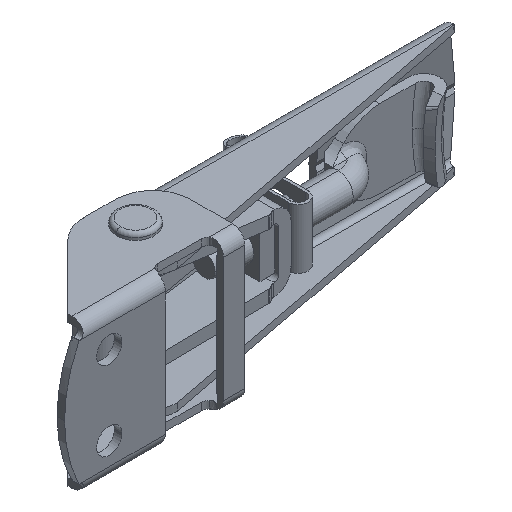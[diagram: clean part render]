
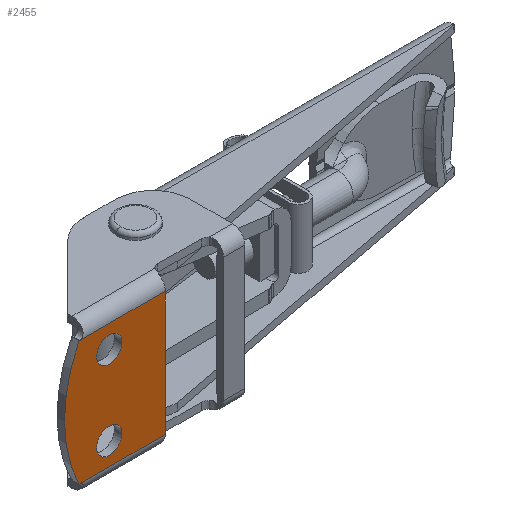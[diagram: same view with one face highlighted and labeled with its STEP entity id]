
A CAD part, isometric view. The second image highlights one B-rep face of the part: STEP entity #2455.
In plain terms, the highlighted planar face has unit normal (0, -1, 0).
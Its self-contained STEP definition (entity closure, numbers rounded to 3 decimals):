
#553 = EDGE_CURVE ( 'NONE', #554, #555, #5792, .T. ) ;
#554 = VERTEX_POINT ( 'NONE', #5788 ) ;
#555 = VERTEX_POINT ( 'NONE', #5787 ) ;
#863 = VERTEX_POINT ( 'NONE', #6572 ) ;
#865 = EDGE_CURVE ( 'NONE', #866, #863, #6485, .T. ) ;
#866 = VERTEX_POINT ( 'NONE', #6480 ) ;
#932 = EDGE_CURVE ( 'NONE', #933, #934, #6669, .T. ) ;
#933 = VERTEX_POINT ( 'NONE', #6670 ) ;
#934 = VERTEX_POINT ( 'NONE', #6659 ) ;
#2389 = VERTEX_POINT ( 'NONE', #9462 ) ;
#2455 = ADVANCED_FACE ( 'NONE', ( #9475, #9474, #9473 ), #9472, .F. ) ;
#2456 = EDGE_LOOP ( 'NONE', ( #2457, #2458 ) ) ;
#2457 = ORIENTED_EDGE ( 'NONE', *, *, #2470, .T. ) ;
#2458 = ORIENTED_EDGE ( 'NONE', *, *, #553, .T. ) ;
#2460 = EDGE_LOOP ( 'NONE', ( #2461, #2462 ) ) ;
#2461 = ORIENTED_EDGE ( 'NONE', *, *, #2487, .T. ) ;
#2462 = ORIENTED_EDGE ( 'NONE', *, *, #932, .T. ) ;
#2470 = EDGE_CURVE ( 'NONE', #555, #554, #9440, .T. ) ;
#2487 = EDGE_CURVE ( 'NONE', #934, #933, #9646, .T. ) ;
#2502 = EDGE_LOOP ( 'NONE', ( #2503, #2507, #2510, #2513, #2515, #2549, #2569 ) ) ;
#2503 = ORIENTED_EDGE ( 'NONE', *, *, #2504, .T. ) ;
#2504 = EDGE_CURVE ( 'NONE', #2505, #2506, #9755, .T. ) ;
#2505 = VERTEX_POINT ( 'NONE', #9664 ) ;
#2506 = VERTEX_POINT ( 'NONE', #9663 ) ;
#2507 = ORIENTED_EDGE ( 'NONE', *, *, #2508, .T. ) ;
#2508 = EDGE_CURVE ( 'NONE', #2506, #2509, #9662, .T. ) ;
#2509 = VERTEX_POINT ( 'NONE', #9704 ) ;
#2510 = ORIENTED_EDGE ( 'NONE', *, *, #2511, .F. ) ;
#2511 = EDGE_CURVE ( 'NONE', #2512, #2509, #9703, .T. ) ;
#2512 = VERTEX_POINT ( 'NONE', #9699 ) ;
#2513 = ORIENTED_EDGE ( 'NONE', *, *, #2514, .T. ) ;
#2514 = EDGE_CURVE ( 'NONE', #2512, #866, #9680, .T. ) ;
#2515 = ORIENTED_EDGE ( 'NONE', *, *, #865, .T. ) ;
#2549 = ORIENTED_EDGE ( 'NONE', *, *, #2600, .T. ) ;
#2569 = ORIENTED_EDGE ( 'NONE', *, *, #2572, .T. ) ;
#2572 = EDGE_CURVE ( 'NONE', #2389, #2505, #9772, .T. ) ;
#2600 = EDGE_CURVE ( 'NONE', #863, #2389, #9846, .T. ) ;
#5697 = CARTESIAN_POINT ( 'NONE',  ( -27.3, 0., 7.95 ) ) ;
#5787 = CARTESIAN_POINT ( 'NONE',  ( -24.75, 0., 7.95 ) ) ;
#5788 = CARTESIAN_POINT ( 'NONE',  ( -29.85, 0., 7.95 ) ) ;
#5789 = DIRECTION ( 'NONE',  ( -1., 0., 0. ) ) ;
#5790 = DIRECTION ( 'NONE',  ( 0., 1., 0. ) ) ;
#5791 = AXIS2_PLACEMENT_3D ( 'NONE', #5697, #5790, #5789 ) ;
#5792 = CIRCLE ( 'NONE', #5791, 2.55 ) ;
#6480 = CARTESIAN_POINT ( 'NONE',  ( -33.355, 0., 12.5 ) ) ;
#6481 = DIRECTION ( 'NONE',  ( 1., 0., 0. ) ) ;
#6482 = DIRECTION ( 'NONE',  ( 0., -1., 0. ) ) ;
#6483 = CARTESIAN_POINT ( 'NONE',  ( -8.3, 0., 0. ) ) ;
#6484 = AXIS2_PLACEMENT_3D ( 'NONE', #6483, #6482, #6481 ) ;
#6485 = CIRCLE ( 'NONE', #6484, 28. ) ;
#6572 = CARTESIAN_POINT ( 'NONE',  ( -36.3, 0., 0. ) ) ;
#6659 = CARTESIAN_POINT ( 'NONE',  ( -24.75, 0., -7.95 ) ) ;
#6665 = DIRECTION ( 'NONE',  ( 1., 0., 0. ) ) ;
#6666 = DIRECTION ( 'NONE',  ( 0., 1., 0. ) ) ;
#6667 = CARTESIAN_POINT ( 'NONE',  ( -27.3, 0., -7.95 ) ) ;
#6668 = AXIS2_PLACEMENT_3D ( 'NONE', #6667, #6666, #6665 ) ;
#6669 = CIRCLE ( 'NONE', #6668, 2.55 ) ;
#6670 = CARTESIAN_POINT ( 'NONE',  ( -29.85, 0., -7.95 ) ) ;
#9432 = DIRECTION ( 'NONE',  ( 0., 1., 0. ) ) ;
#9433 = CARTESIAN_POINT ( 'NONE',  ( -27.3, 0., 7.95 ) ) ;
#9434 = AXIS2_PLACEMENT_3D ( 'NONE', #9433, #9432, #9666 ) ;
#9440 = CIRCLE ( 'NONE', #9434, 2.55 ) ;
#9462 = CARTESIAN_POINT ( 'NONE',  ( -33.355, 0., -12.5 ) ) ;
#9468 = DIRECTION ( 'NONE',  ( 1., 0., 0. ) ) ;
#9469 = DIRECTION ( 'NONE',  ( 0., 1., 0. ) ) ;
#9470 = CARTESIAN_POINT ( 'NONE',  ( -36.3, 0., 15. ) ) ;
#9471 = AXIS2_PLACEMENT_3D ( 'NONE', #9470, #9469, #9468 ) ;
#9472 = PLANE ( 'NONE',  #9471 ) ;
#9473 = FACE_OUTER_BOUND ( 'NONE', #2502, .T. ) ;
#9474 = FACE_BOUND ( 'NONE', #2460, .T. ) ;
#9475 = FACE_BOUND ( 'NONE', #2456, .T. ) ;
#9642 = AXIS2_PLACEMENT_3D ( 'NONE', #9763, #9762, #9761 ) ;
#9646 = CIRCLE ( 'NONE', #9642, 2.55 ) ;
#9660 = VECTOR ( 'NONE', #9705, 1000. ) ;
#9661 = CARTESIAN_POINT ( 'NONE',  ( -16., 0., -14.249 ) ) ;
#9662 = LINE ( 'NONE', #9661, #9660 ) ;
#9663 = CARTESIAN_POINT ( 'NONE',  ( -16., 0., -12.5 ) ) ;
#9664 = CARTESIAN_POINT ( 'NONE',  ( -33.3, 0., -12.5 ) ) ;
#9665 = DIRECTION ( 'NONE',  ( 1., 0., 0. ) ) ;
#9666 = DIRECTION ( 'NONE',  ( -1., 0., 0. ) ) ;
#9677 = DIRECTION ( 'NONE',  ( -1., 0., 0. ) ) ;
#9678 = VECTOR ( 'NONE', #9677, 1000. ) ;
#9679 = CARTESIAN_POINT ( 'NONE',  ( -18.15, 0., 12.5 ) ) ;
#9680 = LINE ( 'NONE', #9679, #9678 ) ;
#9699 = CARTESIAN_POINT ( 'NONE',  ( -33.3, 0., 12.5 ) ) ;
#9700 = DIRECTION ( 'NONE',  ( 1., 0., 0. ) ) ;
#9701 = VECTOR ( 'NONE', #9700, 1000. ) ;
#9702 = CARTESIAN_POINT ( 'NONE',  ( -36.3, 0., 12.5 ) ) ;
#9703 = LINE ( 'NONE', #9702, #9701 ) ;
#9704 = CARTESIAN_POINT ( 'NONE',  ( -16., 0., 12.5 ) ) ;
#9705 = DIRECTION ( 'NONE',  ( 0., 0., 1. ) ) ;
#9753 = VECTOR ( 'NONE', #9665, 1000. ) ;
#9754 = CARTESIAN_POINT ( 'NONE',  ( -36.3, 0., -12.5 ) ) ;
#9755 = LINE ( 'NONE', #9754, #9753 ) ;
#9761 = DIRECTION ( 'NONE',  ( 1., 0., 0. ) ) ;
#9762 = DIRECTION ( 'NONE',  ( 0., 1., 0. ) ) ;
#9763 = CARTESIAN_POINT ( 'NONE',  ( -27.3, 0., -7.95 ) ) ;
#9772 = LINE ( 'NONE', #9808, #9807 ) ;
#9806 = DIRECTION ( 'NONE',  ( 1., 0., 0. ) ) ;
#9807 = VECTOR ( 'NONE', #9806, 1000. ) ;
#9808 = CARTESIAN_POINT ( 'NONE',  ( -18.15, 0., -12.5 ) ) ;
#9844 = CARTESIAN_POINT ( 'NONE',  ( -8.3, 0., 0. ) ) ;
#9845 = AXIS2_PLACEMENT_3D ( 'NONE', #9844, #9906, #9905 ) ;
#9846 = CIRCLE ( 'NONE', #9845, 28. ) ;
#9905 = DIRECTION ( 'NONE',  ( 1., 0., 0. ) ) ;
#9906 = DIRECTION ( 'NONE',  ( 0., -1., 0. ) ) ;
